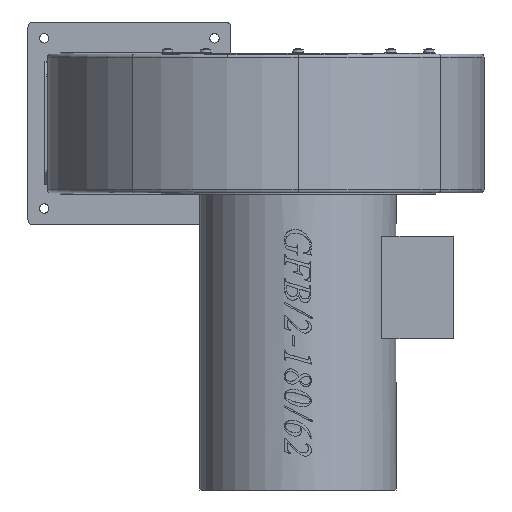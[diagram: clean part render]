
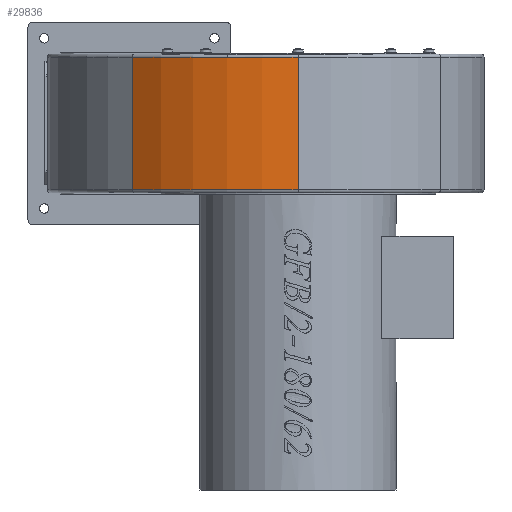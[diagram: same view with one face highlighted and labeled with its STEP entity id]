
A CAD part, left-side view. The second image highlights one B-rep face of the part: STEP entity #29836.
In plain terms, the highlighted cylindrical face has radius 166 mm (diameter 332 mm), a partial arc.
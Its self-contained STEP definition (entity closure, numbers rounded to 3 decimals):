
#648=CIRCLE('',#31234,166.);
#664=CIRCLE('',#31263,166.);
#3612=FACE_OUTER_BOUND('',#5247,.T.);
#5247=EDGE_LOOP('',(#21627,#21628,#21629,#21630));
#8035=LINE('',#54209,#9878);
#8036=LINE('',#54213,#9879);
#9878=VECTOR('',#35233,10.);
#9879=VECTOR('',#35238,10.);
#12067=VERTEX_POINT('',#54157);
#12070=VERTEX_POINT('',#54165);
#12083=VERTEX_POINT('',#54208);
#12084=VERTEX_POINT('',#54212);
#15582=EDGE_CURVE('',#12070,#12067,#648,.T.);
#15603=EDGE_CURVE('',#12067,#12083,#8035,.T.);
#15605=EDGE_CURVE('',#12070,#12084,#8036,.T.);
#15606=EDGE_CURVE('',#12083,#12084,#664,.T.);
#21627=ORIENTED_EDGE('',*,*,#15582,.F.);
#21628=ORIENTED_EDGE('',*,*,#15605,.T.);
#21629=ORIENTED_EDGE('',*,*,#15606,.F.);
#21630=ORIENTED_EDGE('',*,*,#15603,.F.);
#27602=CYLINDRICAL_SURFACE('',#31262,166.);
#29836=ADVANCED_FACE('',(#3612),#27602,.T.);
#31234=AXIS2_PLACEMENT_3D('',#54167,#35177,#35178);
#31262=AXIS2_PLACEMENT_3D('',#54211,#35236,#35237);
#31263=AXIS2_PLACEMENT_3D('',#54214,#35239,#35240);
#35177=DIRECTION('center_axis',(0.,0.,
-1.));
#35178=DIRECTION('ref_axis',(-0.955,0.297,0.));
#35233=DIRECTION('',(0.,0.,1.));
#35236=DIRECTION('center_axis',(0.,0.,
1.));
#35237=DIRECTION('ref_axis',(-0.757,0.654,0.));
#35238=DIRECTION('',(0.,0.,1.));
#35239=DIRECTION('center_axis',(0.,0.,
1.));
#35240=DIRECTION('ref_axis',(-0.955,0.297,0.));
#54157=CARTESIAN_POINT('',(-126.572,126.572,-100.7));
#54165=CARTESIAN_POINT('',(-166.,0.,-100.7));
#54167=CARTESIAN_POINT('Origin',(-0.981,18.023,-100.7));
#54208=CARTESIAN_POINT('',(-126.572,126.572,0.7));
#54209=CARTESIAN_POINT('',(-126.572,126.572,-102.5));
#54211=CARTESIAN_POINT('Origin',(-0.981,18.023,-102.5));
#54212=CARTESIAN_POINT('',(-166.,0.,0.7));
#54213=CARTESIAN_POINT('',(-166.,0.,-102.5));
#54214=CARTESIAN_POINT('Origin',(-0.981,18.023,0.7));
